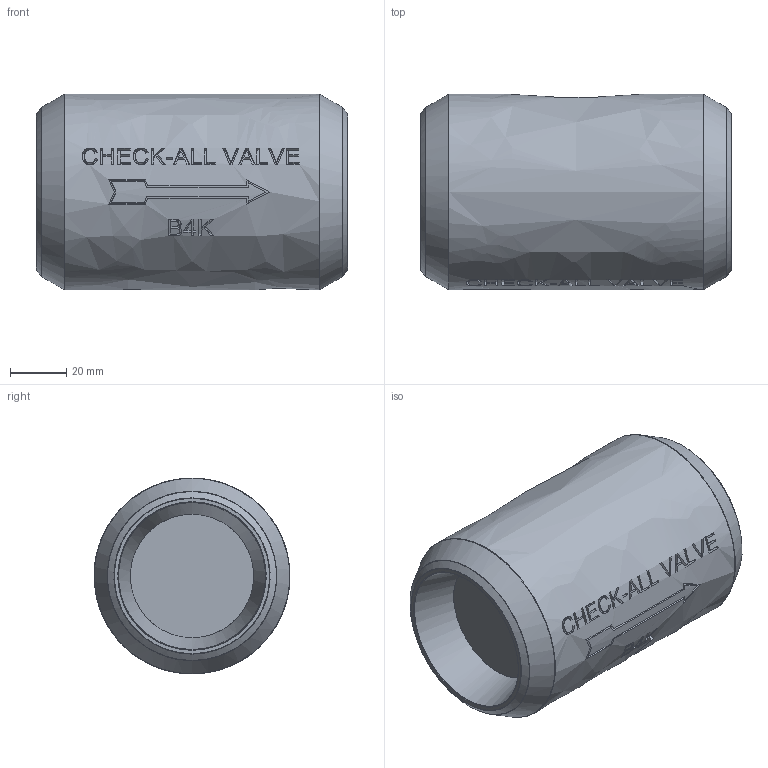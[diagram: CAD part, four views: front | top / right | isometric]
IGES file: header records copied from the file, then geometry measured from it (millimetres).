
Start section: C
Global section: file name: B4K.igs; native system:  By UGS Corp.; preprocessor: XPlus GENERIC/IGES 3.0; author: Author; organization: Title; date: 20120611.092256; units: inch
Bounding box: 110.95 x 69.85 x 69.85 mm (x, y, z)
Surface area: 35286.3 mm2 (no closed solid volume)
Topology: 0 solids, 0 shells, 214 faces, 1128 edges, 1128 vertices
Faces by surface type: bspline 214
